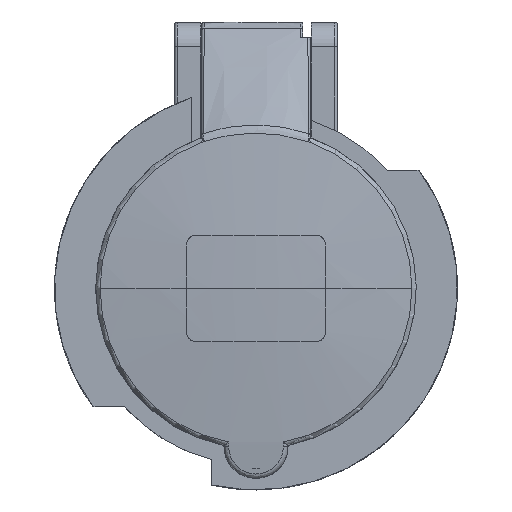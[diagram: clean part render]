
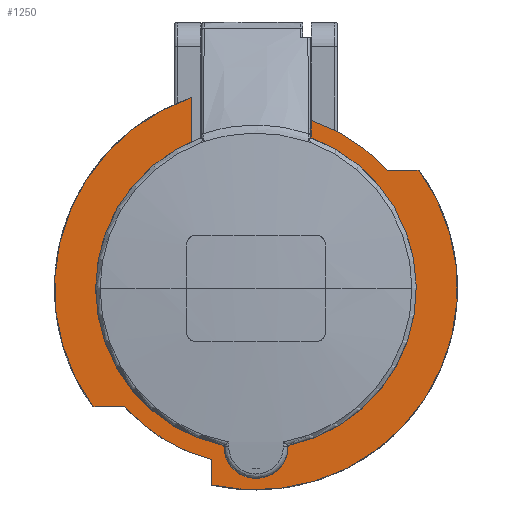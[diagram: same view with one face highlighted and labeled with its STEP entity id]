
A CAD part, top view. The second image highlights one B-rep face of the part: STEP entity #1250.
In plain terms, the highlighted planar face has unit normal (0, 0, 1).
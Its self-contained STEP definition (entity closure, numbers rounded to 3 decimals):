
#1191 = VERTEX_POINT('',#1192);
#1192 = CARTESIAN_POINT('',(-6.498,-31.844,49.5));
#1200 = VERTEX_POINT('',#1201);
#1201 = CARTESIAN_POINT('',(-13.,29.787,49.5));
#1207 = EDGE_CURVE('',#1200,#1191,#1208,.T.);
#1208 = CIRCLE('',#1209,32.5);
#1209 = AXIS2_PLACEMENT_3D('',#1210,#1211,#1212);
#1210 = CARTESIAN_POINT('',(0.,0.,49.5));
#1211 = DIRECTION('',(0.,0.,1.));
#1212 = DIRECTION('',(-0.4,0.917,0.));
#1223 = VERTEX_POINT('',#1224);
#1224 = CARTESIAN_POINT('',(11.2,30.509,49.5));
#1232 = VERTEX_POINT('',#1233);
#1233 = CARTESIAN_POINT('',(6.498,-31.844,49.5));
#1239 = EDGE_CURVE('',#1232,#1223,#1240,.T.);
#1240 = CIRCLE('',#1241,32.5);
#1241 = AXIS2_PLACEMENT_3D('',#1242,#1243,#1244);
#1242 = CARTESIAN_POINT('',(0.,0.,49.5));
#1243 = DIRECTION('',(0.,0.,1.));
#1244 = DIRECTION('',(0.2,-0.98,0.));
#1250 = ADVANCED_FACE('',(#1251),#1344,.F.);
#1251 = FACE_BOUND('',#1252,.T.);
#1252 = EDGE_LOOP('',(#1253,#1263,#1272,#1280,#1289,#1297,#1306,#1314,
    #1320,#1321,#1328,#1329,#1337));
#1253 = ORIENTED_EDGE('',*,*,#1254,.T.);
#1254 = EDGE_CURVE('',#1255,#1257,#1259,.T.);
#1255 = VERTEX_POINT('',#1256);
#1256 = CARTESIAN_POINT('',(-33.056,-24.,49.5));
#1257 = VERTEX_POINT('',#1258);
#1258 = CARTESIAN_POINT('',(-26.631,-24.,49.5));
#1259 = LINE('',#1260,#1261);
#1260 = CARTESIAN_POINT('',(-33.056,-24.,49.5));
#1261 = VECTOR('',#1262,1.);
#1262 = DIRECTION('',(1.,0.,0.));
#1263 = ORIENTED_EDGE('',*,*,#1264,.T.);
#1264 = EDGE_CURVE('',#1257,#1265,#1267,.T.);
#1265 = VERTEX_POINT('',#1266);
#1266 = CARTESIAN_POINT('',(-9.,-34.702,49.5));
#1267 = CIRCLE('',#1268,35.85);
#1268 = AXIS2_PLACEMENT_3D('',#1269,#1270,#1271);
#1269 = CARTESIAN_POINT('',(0.,0.,49.5));
#1270 = DIRECTION('',(0.,0.,1.));
#1271 = DIRECTION('',(-0.743,-0.669,0.));
#1272 = ORIENTED_EDGE('',*,*,#1273,.F.);
#1273 = EDGE_CURVE('',#1274,#1265,#1276,.T.);
#1274 = VERTEX_POINT('',#1275);
#1275 = CARTESIAN_POINT('',(-9.,-39.846,49.5));
#1276 = LINE('',#1277,#1278);
#1277 = CARTESIAN_POINT('',(-9.,-39.846,49.5));
#1278 = VECTOR('',#1279,1.);
#1279 = DIRECTION('',(0.,1.,0.));
#1280 = ORIENTED_EDGE('',*,*,#1281,.T.);
#1281 = EDGE_CURVE('',#1274,#1282,#1284,.T.);
#1282 = VERTEX_POINT('',#1283);
#1283 = CARTESIAN_POINT('',(33.056,24.,49.5));
#1284 = CIRCLE('',#1285,40.85);
#1285 = AXIS2_PLACEMENT_3D('',#1286,#1287,#1288);
#1286 = CARTESIAN_POINT('',(0.,0.,49.5));
#1287 = DIRECTION('',(0.,0.,1.));
#1288 = DIRECTION('',(-0.22,-0.975,0.));
#1289 = ORIENTED_EDGE('',*,*,#1290,.T.);
#1290 = EDGE_CURVE('',#1282,#1291,#1293,.T.);
#1291 = VERTEX_POINT('',#1292);
#1292 = CARTESIAN_POINT('',(26.631,24.,49.5));
#1293 = LINE('',#1294,#1295);
#1294 = CARTESIAN_POINT('',(33.056,24.,49.5));
#1295 = VECTOR('',#1296,1.);
#1296 = DIRECTION('',(-1.,0.,0.));
#1297 = ORIENTED_EDGE('',*,*,#1298,.T.);
#1298 = EDGE_CURVE('',#1291,#1299,#1301,.T.);
#1299 = VERTEX_POINT('',#1300);
#1300 = CARTESIAN_POINT('',(11.2,34.056,49.5));
#1301 = CIRCLE('',#1302,35.85);
#1302 = AXIS2_PLACEMENT_3D('',#1303,#1304,#1305);
#1303 = CARTESIAN_POINT('',(0.,0.,49.5));
#1304 = DIRECTION('',(0.,0.,1.));
#1305 = DIRECTION('',(0.743,0.669,-0.));
#1306 = ORIENTED_EDGE('',*,*,#1307,.T.);
#1307 = EDGE_CURVE('',#1299,#1308,#1310,.T.);
#1308 = VERTEX_POINT('',#1309);
#1309 = CARTESIAN_POINT('',(11.2,31.7,49.5));
#1310 = LINE('',#1311,#1312);
#1311 = CARTESIAN_POINT('',(11.2,34.056,49.5));
#1312 = VECTOR('',#1313,1.);
#1313 = DIRECTION('',(0.,-1.,0.));
#1314 = ORIENTED_EDGE('',*,*,#1315,.T.);
#1315 = EDGE_CURVE('',#1308,#1223,#1316,.T.);
#1316 = LINE('',#1317,#1318);
#1317 = CARTESIAN_POINT('',(11.2,31.7,49.5));
#1318 = VECTOR('',#1319,1.);
#1319 = DIRECTION('',(0.,-1.,0.));
#1320 = ORIENTED_EDGE('',*,*,#1239,.F.);
#1321 = ORIENTED_EDGE('',*,*,#1322,.F.);
#1322 = EDGE_CURVE('',#1191,#1232,#1323,.T.);
#1323 = CIRCLE('',#1324,6.5);
#1324 = AXIS2_PLACEMENT_3D('',#1325,#1326,#1327);
#1325 = CARTESIAN_POINT('',(0.,-32.,49.5));
#1326 = DIRECTION('',(0.,0.,1.));
#1327 = DIRECTION('',(-1.,0.024,0.));
#1328 = ORIENTED_EDGE('',*,*,#1207,.F.);
#1329 = ORIENTED_EDGE('',*,*,#1330,.T.);
#1330 = EDGE_CURVE('',#1200,#1331,#1333,.T.);
#1331 = VERTEX_POINT('',#1332);
#1332 = CARTESIAN_POINT('',(-13.,38.726,49.5));
#1333 = LINE('',#1334,#1335);
#1334 = CARTESIAN_POINT('',(-13.,29.787,49.5));
#1335 = VECTOR('',#1336,1.);
#1336 = DIRECTION('',(0.,1.,0.));
#1337 = ORIENTED_EDGE('',*,*,#1338,.T.);
#1338 = EDGE_CURVE('',#1331,#1255,#1339,.T.);
#1339 = CIRCLE('',#1340,40.85);
#1340 = AXIS2_PLACEMENT_3D('',#1341,#1342,#1343);
#1341 = CARTESIAN_POINT('',(0.,0.,49.5));
#1342 = DIRECTION('',(0.,0.,1.));
#1343 = DIRECTION('',(-0.318,0.948,0.));
#1344 = PLANE('',#1345);
#1345 = AXIS2_PLACEMENT_3D('',#1346,#1347,#1348);
#1346 = CARTESIAN_POINT('',(0.,0.,49.5));
#1347 = DIRECTION('',(0.,0.,-1.));
#1348 = DIRECTION('',(1.,0.,0.));
